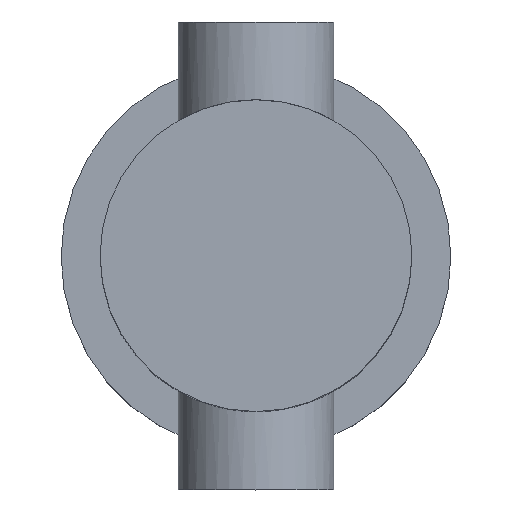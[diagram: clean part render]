
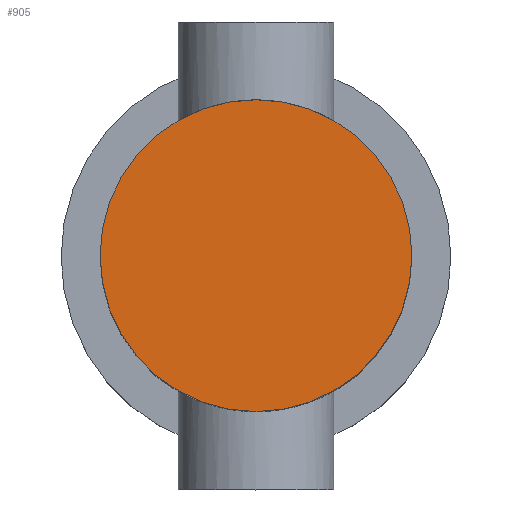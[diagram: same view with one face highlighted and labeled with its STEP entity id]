
A CAD part, top view. The second image highlights one B-rep face of the part: STEP entity #905.
In plain terms, the highlighted planar face has unit normal (0, 0, 1).
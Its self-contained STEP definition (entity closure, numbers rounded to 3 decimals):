
#137 = CYLINDRICAL_SURFACE('',#138,16.);
#138 = AXIS2_PLACEMENT_3D('',#139,#140,#141);
#139 = CARTESIAN_POINT('',(0.,0.,-44.));
#140 = DIRECTION('',(-0.,-0.,-1.));
#141 = DIRECTION('',(1.,0.,0.));
#153 = VERTEX_POINT('',#154);
#154 = CARTESIAN_POINT('',(16.,0.,20.));
#177 = EDGE_CURVE('',#153,#153,#178,.T.);
#178 = SURFACE_CURVE('',#179,(#184,#191),.PCURVE_S1.);
#179 = CIRCLE('',#180,16.);
#180 = AXIS2_PLACEMENT_3D('',#181,#182,#183);
#181 = CARTESIAN_POINT('',(0.,0.,20.));
#182 = DIRECTION('',(0.,0.,1.));
#183 = DIRECTION('',(1.,0.,0.));
#184 = PCURVE('',#137,#185);
#185 = DEFINITIONAL_REPRESENTATION('',(#186),#190);
#186 = LINE('',#187,#188);
#187 = CARTESIAN_POINT('',(-0.,-64.));
#188 = VECTOR('',#189,1.);
#189 = DIRECTION('',(-1.,0.));
#190 = ( GEOMETRIC_REPRESENTATION_CONTEXT(2) 
PARAMETRIC_REPRESENTATION_CONTEXT() REPRESENTATION_CONTEXT('2D SPACE',''
  ) );
#191 = PCURVE('',#192,#197);
#192 = PLANE('',#193);
#193 = AXIS2_PLACEMENT_3D('',#194,#195,#196);
#194 = CARTESIAN_POINT('',(0.,0.,20.));
#195 = DIRECTION('',(0.,0.,1.));
#196 = DIRECTION('',(1.,0.,-0.));
#197 = DEFINITIONAL_REPRESENTATION('',(#198),#202);
#198 = CIRCLE('',#199,16.);
#199 = AXIS2_PLACEMENT_2D('',#200,#201);
#200 = CARTESIAN_POINT('',(0.,0.));
#201 = DIRECTION('',(1.,0.));
#202 = ( GEOMETRIC_REPRESENTATION_CONTEXT(2) 
PARAMETRIC_REPRESENTATION_CONTEXT() REPRESENTATION_CONTEXT('2D SPACE',''
  ) );
#905 = ADVANCED_FACE('',(#906),#192,.T.);
#906 = FACE_BOUND('',#907,.T.);
#907 = EDGE_LOOP('',(#908));
#908 = ORIENTED_EDGE('',*,*,#177,.T.);
